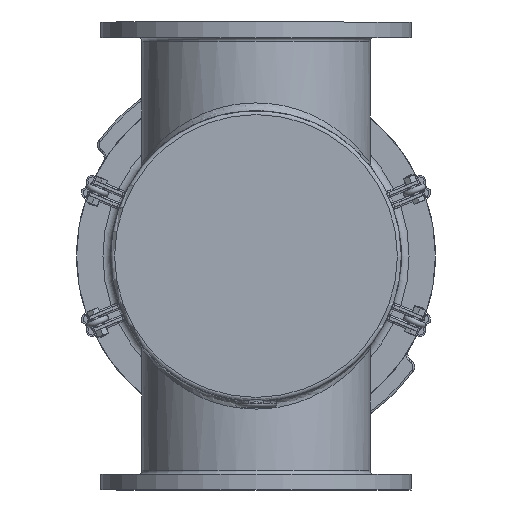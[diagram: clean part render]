
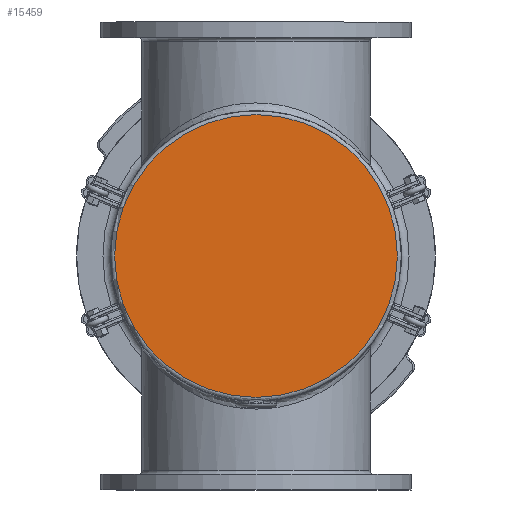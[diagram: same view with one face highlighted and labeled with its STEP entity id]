
A CAD part, front view. The second image highlights one B-rep face of the part: STEP entity #15459.
In plain terms, the highlighted planar face has unit normal (0, -1, 0).
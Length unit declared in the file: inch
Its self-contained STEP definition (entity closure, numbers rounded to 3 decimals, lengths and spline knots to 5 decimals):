
#2188=PLANE('',#16481);
#3256=FACE_OUTER_BOUND('',#4245,.T.);
#4245=EDGE_LOOP('',(#10379));
#5765=CIRCLE('',#16477,9.0625);
#6718=VERTEX_POINT('',#23677);
#8126=EDGE_CURVE('',#6718,#6718,#5765,.T.);
#10379=ORIENTED_EDGE('',*,*,#8126,.F.);
#15459=ADVANCED_FACE('',(#3256),#2188,.F.);
#16477=AXIS2_PLACEMENT_3D('',#23678,#18484,#18485);
#16481=AXIS2_PLACEMENT_3D('',#23683,#18492,#18493);
#18484=DIRECTION('center_axis',(0.,1.,0.));
#18485=DIRECTION('ref_axis',(1.,0.,0.));
#18492=DIRECTION('center_axis',(0.,1.,0.));
#18493=DIRECTION('ref_axis',(0.,0.,1.));
#23677=CARTESIAN_POINT('',(-9.0625,0.,0.));
#23678=CARTESIAN_POINT('Origin',(0.,0.,0.));
#23683=CARTESIAN_POINT('Origin',(0.,0.,0.));
